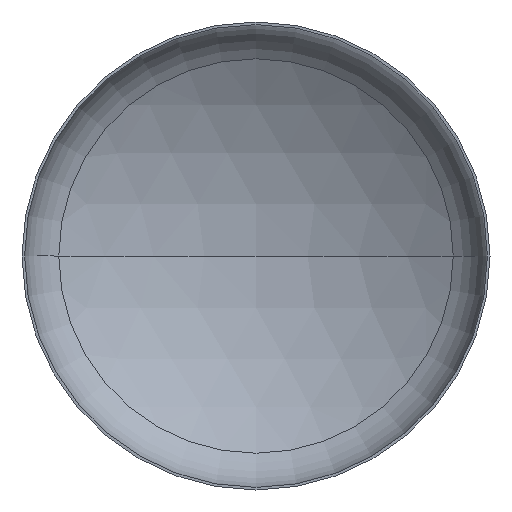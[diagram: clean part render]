
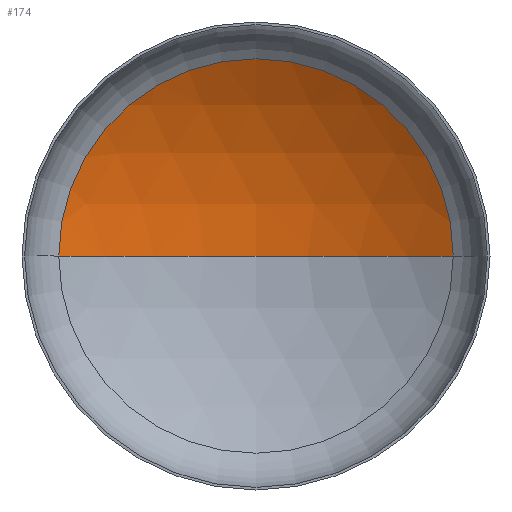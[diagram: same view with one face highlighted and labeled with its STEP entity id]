
A CAD part, front view. The second image highlights one B-rep face of the part: STEP entity #174.
In plain terms, the highlighted spherical face has radius 5600 mm.
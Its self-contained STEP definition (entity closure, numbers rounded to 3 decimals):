
#20 = VERTEX_POINT ( 'NONE', #346 ) ;
#25 = ORIENTED_EDGE ( 'NONE', *, *, #254, .T. ) ;
#29 = ORIENTED_EDGE ( 'NONE', *, *, #260, .T. ) ;
#38 = CIRCLE ( 'NONE', #131, 5600. ) ;
#51 = VERTEX_POINT ( 'NONE', #245 ) ;
#53 = VERTEX_POINT ( 'NONE', #63 ) ;
#63 = CARTESIAN_POINT ( 'NONE',  ( -2949.912, 1038.009, 0. ) ) ;
#64 = ORIENTED_EDGE ( 'NONE', *, *, #263, .F. ) ;
#74 = EDGE_LOOP ( 'NONE', ( #64, #29, #25 ) ) ;
#99 = FACE_OUTER_BOUND ( 'NONE', #74, .T. ) ;
#126 = AXIS2_PLACEMENT_3D ( 'NONE', #239, #237, #234 ) ;
#129 = DIRECTION ( 'NONE',  ( 0., -1., 0. ) ) ;
#131 = AXIS2_PLACEMENT_3D ( 'NONE', #252, #249, #281 ) ;
#151 = CIRCLE ( 'NONE', #126, 5600. ) ;
#152 = AXIS2_PLACEMENT_3D ( 'NONE', #303, #129, #345 ) ;
#174 = ADVANCED_FACE ( 'NONE', ( #99 ), #384, .F. ) ;
#197 = AXIS2_PLACEMENT_3D ( 'NONE', #322, #319, #315 ) ;
#234 = DIRECTION ( 'NONE',  ( 1., 0., 0. ) ) ;
#237 = DIRECTION ( 'NONE',  ( 0., 0., 1. ) ) ;
#239 = CARTESIAN_POINT ( 'NONE',  ( 0., -3722.036, 0. ) ) ;
#245 = CARTESIAN_POINT ( 'NONE',  ( 2949.912, 1038.009, 0. ) ) ;
#247 = CIRCLE ( 'NONE', #152, 2949.912 ) ;
#249 = DIRECTION ( 'NONE',  ( 0., 0., -1. ) ) ;
#252 = CARTESIAN_POINT ( 'NONE',  ( 0., -3722.036, 0. ) ) ;
#254 = EDGE_CURVE ( 'NONE', #51, #53, #247, .T. ) ;
#260 = EDGE_CURVE ( 'NONE', #20, #51, #38, .T. ) ;
#263 = EDGE_CURVE ( 'NONE', #20, #53, #151, .T. ) ;
#281 = DIRECTION ( 'NONE',  ( -1., 0., 0. ) ) ;
#303 = CARTESIAN_POINT ( 'NONE',  ( 0., 1038.009, 0. ) ) ;
#315 = DIRECTION ( 'NONE',  ( -1., 0., 0. ) ) ;
#319 = DIRECTION ( 'NONE',  ( 0., 0., -1. ) ) ;
#322 = CARTESIAN_POINT ( 'NONE',  ( 0., -3722.036, 0. ) ) ;
#345 = DIRECTION ( 'NONE',  ( 1., 0., 0. ) ) ;
#346 = CARTESIAN_POINT ( 'NONE',  ( 0., 1877.964, 0. ) ) ;
#384 = SPHERICAL_SURFACE ( 'NONE', #197, 5600. ) ;
